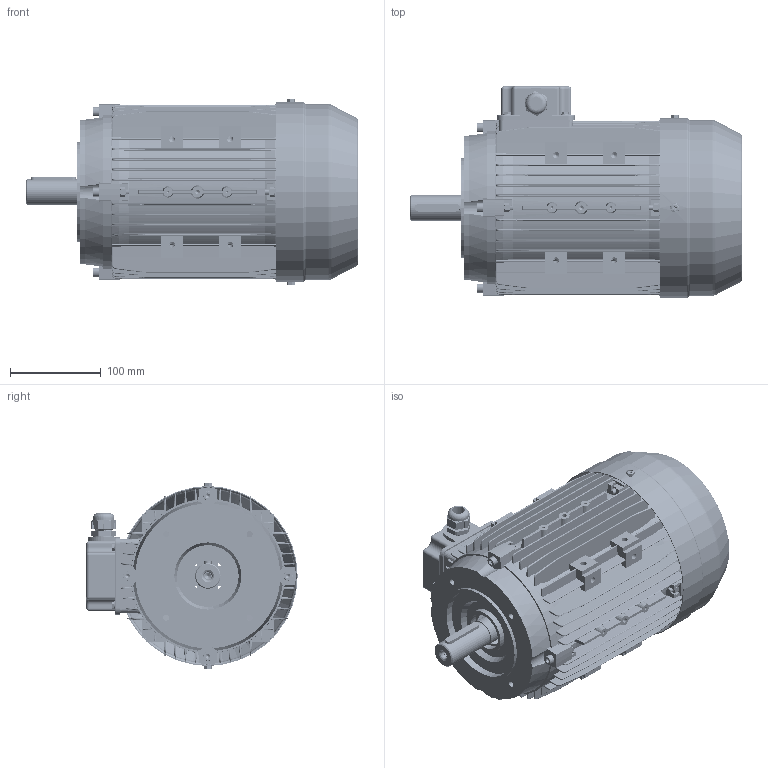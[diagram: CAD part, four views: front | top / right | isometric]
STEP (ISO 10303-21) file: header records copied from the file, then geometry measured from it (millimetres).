
FILE_DESCRIPTION (( 'STEP AP203' ), '1' );
FILE_NAME ('MSL100S assembly B14.STEP', '2017-11-26T09:56:36', ( 'user' ), ( 'china' ), 'SwSTEP 2.0', 'SolidWorks 2016', '' );
FILE_SCHEMA (( 'CONFIG_CONTROL_DESIGN' ));
Length unit declared in the file: millimetre
Products named in the file (15): M100傷裔_NonDriveEnd; GB-T 29.2-1988 M5鞠褒坋趼湍菜_08; MSL100S assembly B14; MS100 綴裔瑞欶郪磁_90; M100儂褲_M100S; MSL80-90堤盄碟蚾饜; GB-T 70.1-2000 M6_34; M100-Shaft drive end; GB-T 41-2000 M6; GB-T 5780-2000 M6_035; MSL80-90堤盄碟_MSL80-90; GB-T 29.2-1988 M4鞠褒坋趼湍菜_05; M100傷裔B14; M20 cable gland; M100瑞欶_090
Assembly tree (32 placements, depth 3):
  MSL100S assembly B14
    M100儂褲_M100S
    M100-Shaft drive end
    MS100 綴裔瑞欶郪磁_90
      M100傷裔_NonDriveEnd
      M100瑞欶_090
      GB-T 29.2-1988 M5鞠褒坋趼湍菜_08  x3
    GB-T 41-2000 M6  x8
    GB-T 70.1-2000 M6_34  x4
    GB-T 5780-2000 M6_035  x4
    MSL80-90堤盄碟蚾饜
      MSL80-90堤盄碟_MSL80-90
      GB-T 29.2-1988 M4鞠褒坋趼湍菜_05  x4
      M20 cable gland
    M100傷裔B14
Bounding box: 366 x 233 x 205 mm (x, y, z)
Volume: 1393915.4 mm3; surface area: 839155 mm2
Topology: 30 solids, 30 shells, 4989 faces, 12859 edges, 7957 vertices
Faces by surface type: plane 1846, cylinder 1290, cone 1138, bspline 570, torus 137, sphere 8
Entity records: 150287 total; most frequent: CARTESIAN_POINT 62888, ORIENTED_EDGE 19042, DIRECTION 16057, EDGE_CURVE 9521, VERTEX_POINT 6059, AXIS2_PLACEMENT_3D 5516, VECTOR 5025, LINE 5025
